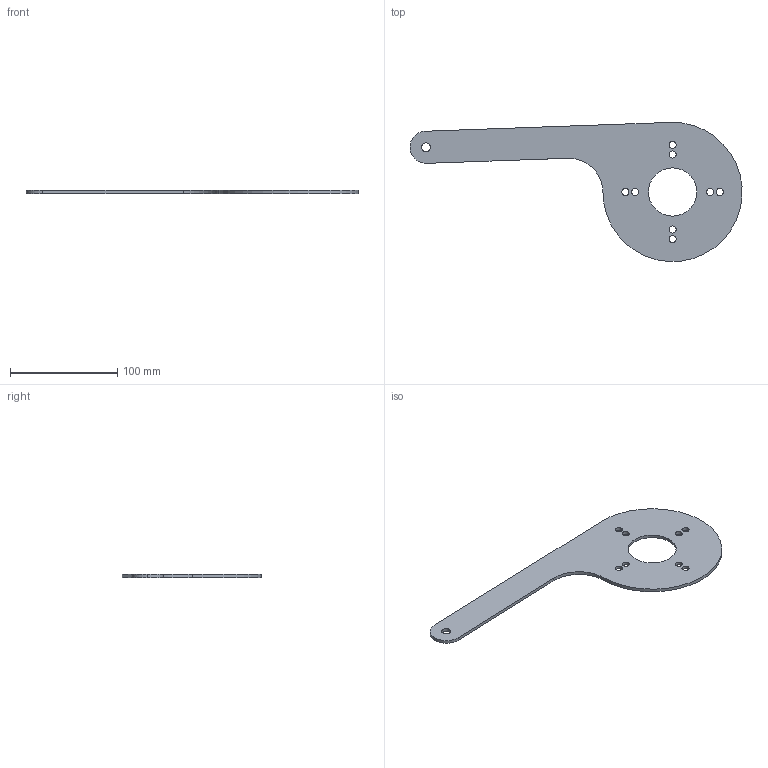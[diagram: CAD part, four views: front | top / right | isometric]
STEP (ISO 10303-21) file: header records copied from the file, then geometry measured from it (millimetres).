
FILE_DESCRIPTION (( 'STEP AP214' ), '1' );
FILE_NAME ('BCF CAB.STEP', '2024-03-07T08:08:56', ( '' ), ( '' ), 'SwSTEP 2.0', 'SolidWorks 2023', '' );
FILE_SCHEMA (( 'AUTOMOTIVE_DESIGN' ));
Length unit declared in the file: millimetre
Products named in the file (1): BCF CAB
Bounding box: 309.87 x 129.9 x 3 mm (x, y, z)
Volume: 53205.1 mm3; surface area: 38770.8 mm2
Topology: 1 solids, 1 shells, 28 faces, 78 edges, 52 vertices
Faces by surface type: cylinder 24, plane 4
Entity records: 993 total; most frequent: DIRECTION 184, CARTESIAN_POINT 159, ORIENTED_EDGE 156, EDGE_CURVE 78, AXIS2_PLACEMENT_3D 77, VERTEX_POINT 52, EDGE_LOOP 48, CIRCLE 48
